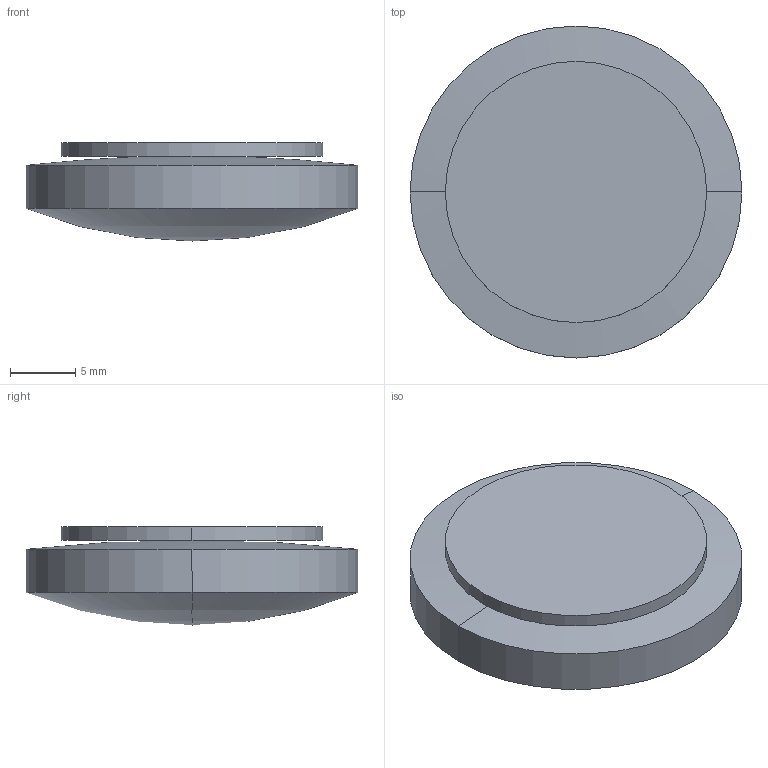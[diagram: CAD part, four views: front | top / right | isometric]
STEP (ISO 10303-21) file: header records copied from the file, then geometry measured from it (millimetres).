
FILE_DESCRIPTION(('STEP AP214'),'1');
FILE_NAME('LLR-25-63.STEP','2020-03-09T17:41:56',(' '),(' '),'Spatial InterOp 3D',' ',' ');
FILE_SCHEMA(('AUTOMOTIVE_DESIGN { 1 0 10303 214 1 1 1 1 }'));
Length unit declared in the file: millimetre
Products named in the file (1): 1
Bounding box: 25.4 x 25.4 x 7.5 mm (x, y, z)
Volume: 2806.7 mm3; surface area: 1989.4 mm2
Topology: 2 solids, 2 shells, 10 faces, 20 edges, 10 vertices
Faces by surface type: sphere 4, cylinder 4, plane 2
Entity records: 255 total; most frequent: DIRECTION 52, CARTESIAN_POINT 38, ORIENTED_EDGE 32, AXIS2_PLACEMENT_3D 24, EDGE_CURVE 16, CIRCLE 12, ADVANCED_FACE 10, FACE_OUTER_BOUND 10
